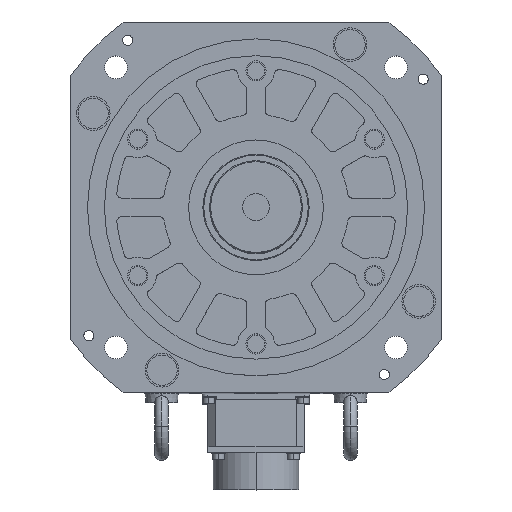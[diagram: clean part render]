
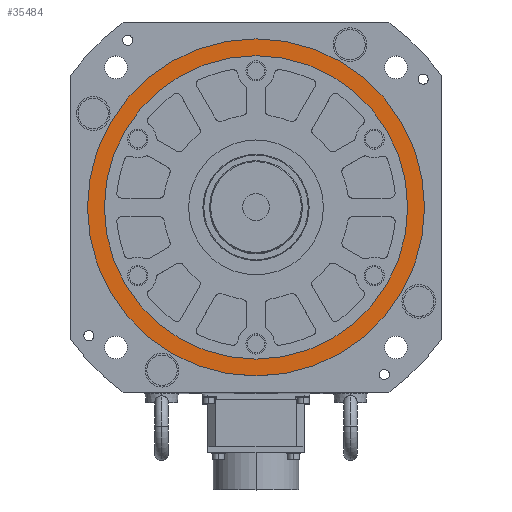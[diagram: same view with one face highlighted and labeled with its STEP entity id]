
A CAD part, top view. The second image highlights one B-rep face of the part: STEP entity #35484.
In plain terms, the highlighted planar face has unit normal (0, 0, 1).
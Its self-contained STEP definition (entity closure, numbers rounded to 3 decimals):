
#97 = DIRECTION ( 'NONE',  ( 1., 0., 0. ) ) ;
#747 = DIRECTION ( 'NONE',  ( 0., 0., 1. ) ) ;
#2911 = CARTESIAN_POINT ( 'NONE',  ( 90., 0., 4. ) ) ;
#3453 = CARTESIAN_POINT ( 'NONE',  ( -90., 0., 4. ) ) ;
#5379 = CIRCLE ( 'NONE', #37218, 100. ) ;
#5584 = DIRECTION ( 'NONE',  ( 0., 0., 1. ) ) ;
#5656 = EDGE_LOOP ( 'NONE', ( #5926, #26515 ) ) ;
#5855 = EDGE_LOOP ( 'NONE', ( #26818, #6902 ) ) ;
#5926 = ORIENTED_EDGE ( 'NONE', *, *, #31368, .T. ) ;
#6367 = FACE_OUTER_BOUND ( 'NONE', #5656, .T. ) ;
#6765 = DIRECTION ( 'NONE',  ( 0., 0., 1. ) ) ;
#6902 = ORIENTED_EDGE ( 'NONE', *, *, #9368, .F. ) ;
#9368 = EDGE_CURVE ( 'NONE', #21964, #33933, #31124, .T. ) ;
#10773 = DIRECTION ( 'NONE',  ( 1., 0., 0. ) ) ;
#11286 = PLANE ( 'NONE',  #35844 ) ;
#11489 = DIRECTION ( 'NONE',  ( 0., 0., 1. ) ) ;
#14595 = CIRCLE ( 'NONE', #15190, 90. ) ;
#14975 = CIRCLE ( 'NONE', #33207, 100. ) ;
#15117 = DIRECTION ( 'NONE',  ( 1., 0., 0. ) ) ;
#15190 = AXIS2_PLACEMENT_3D ( 'NONE', #19965, #25591, #19580 ) ;
#15469 = DIRECTION ( 'NONE',  ( 1., 0., 0. ) ) ;
#19108 = EDGE_CURVE ( 'NONE', #33933, #21964, #14595, .T. ) ;
#19580 = DIRECTION ( 'NONE',  ( 1., 0., 0. ) ) ;
#19864 = EDGE_CURVE ( 'NONE', #25004, #37666, #14975, .T. ) ;
#19965 = CARTESIAN_POINT ( 'NONE',  ( 0., 0., 4. ) ) ;
#21056 = CARTESIAN_POINT ( 'NONE',  ( 0., 0., 4. ) ) ;
#21964 = VERTEX_POINT ( 'NONE', #3453 ) ;
#23491 = CARTESIAN_POINT ( 'NONE',  ( 100., 0., 4. ) ) ;
#25004 = VERTEX_POINT ( 'NONE', #23491 ) ;
#25591 = DIRECTION ( 'NONE',  ( 0., 0., 1. ) ) ;
#25822 = FACE_BOUND ( 'NONE', #5855, .T. ) ;
#26515 = ORIENTED_EDGE ( 'NONE', *, *, #19864, .T. ) ;
#26818 = ORIENTED_EDGE ( 'NONE', *, *, #19108, .F. ) ;
#28191 = CARTESIAN_POINT ( 'NONE',  ( -100., 0., 4. ) ) ;
#31124 = CIRCLE ( 'NONE', #35088, 90. ) ;
#31129 = CARTESIAN_POINT ( 'NONE',  ( 0., 0., 4. ) ) ;
#31368 = EDGE_CURVE ( 'NONE', #37666, #25004, #5379, .T. ) ;
#33207 = AXIS2_PLACEMENT_3D ( 'NONE', #35211, #747, #15117 ) ;
#33933 = VERTEX_POINT ( 'NONE', #2911 ) ;
#35088 = AXIS2_PLACEMENT_3D ( 'NONE', #31129, #11489, #97 ) ;
#35211 = CARTESIAN_POINT ( 'NONE',  ( 0., 0., 4. ) ) ;
#35484 = ADVANCED_FACE ( 'NONE', ( #25822, #6367 ), #11286, .T. ) ;
#35844 = AXIS2_PLACEMENT_3D ( 'NONE', #37446, #5584, #10773 ) ;
#37218 = AXIS2_PLACEMENT_3D ( 'NONE', #21056, #6765, #15469 ) ;
#37446 = CARTESIAN_POINT ( 'NONE',  ( 0., 0., 4. ) ) ;
#37666 = VERTEX_POINT ( 'NONE', #28191 ) ;
